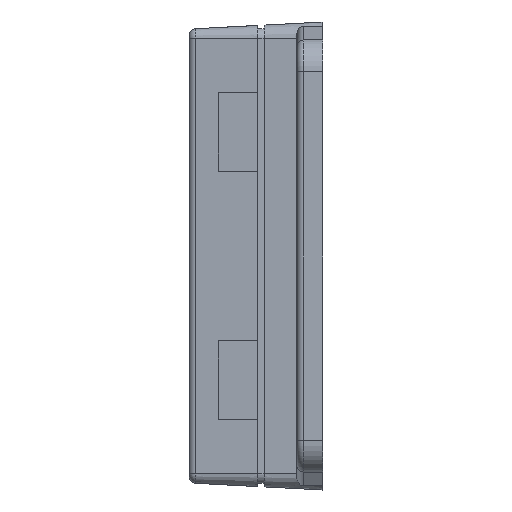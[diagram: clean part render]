
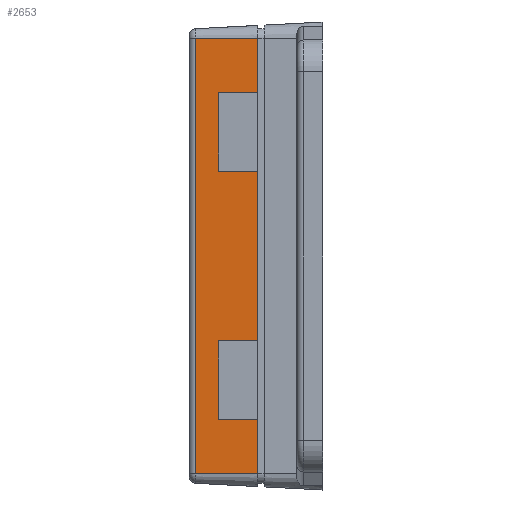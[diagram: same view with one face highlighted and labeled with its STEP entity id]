
A CAD part, left-side view. The second image highlights one B-rep face of the part: STEP entity #2653.
In plain terms, the highlighted planar face has unit normal (-0.999, 0.052, 0).
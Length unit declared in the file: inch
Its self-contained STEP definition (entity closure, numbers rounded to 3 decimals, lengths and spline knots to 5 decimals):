
#67 = VECTOR ( 'NONE', #5643, 39.37008 ) ;
#161 = CARTESIAN_POINT ( 'NONE',  ( -2.05443, 0.63215, -0.98425 ) ) ;
#322 = CARTESIAN_POINT ( 'NONE',  ( -2.04722, 0.76978, -1.31102 ) ) ;
#336 = LINE ( 'NONE', #4119, #5964 ) ;
#348 = DIRECTION ( 'NONE',  ( 0., 0., 1. ) ) ;
#411 = ORIENTED_EDGE ( 'NONE', *, *, #5316, .T. ) ;
#481 = LINE ( 'NONE', #6557, #3192 ) ;
#678 = VECTOR ( 'NONE', #5548, 39.37008 ) ;
#679 = DIRECTION ( 'NONE',  ( 0., 0., 1. ) ) ;
#764 = VERTEX_POINT ( 'NONE', #3047 ) ;
#804 = EDGE_CURVE ( 'NONE', #6882, #6074, #336, .T. ) ;
#847 = EDGE_CURVE ( 'NONE', #6415, #4742, #3309, .T. ) ;
#1147 = DIRECTION ( 'NONE',  ( -0.052, -0.999, 0. ) ) ;
#1215 = DIRECTION ( 'NONE',  ( -0.052, -0.999, 0. ) ) ;
#1266 = CARTESIAN_POINT ( 'NONE',  ( -2.06693, 0.3937, -1.31102 ) ) ;
#1279 = VECTOR ( 'NONE', #3503, 39.37008 ) ;
#1282 = CARTESIAN_POINT ( 'NONE',  ( -2.06693, 0.3937, -0.51181 ) ) ;
#1324 = AXIS2_PLACEMENT_3D ( 'NONE', #2237, #2721, #2814 ) ;
#1346 = CARTESIAN_POINT ( 'NONE',  ( -2.06693, 0.3937, 0.98425 ) ) ;
#1488 = LINE ( 'NONE', #4652, #67 ) ;
#1573 = VECTOR ( 'NONE', #4187, 39.37008 ) ;
#1577 = DIRECTION ( 'NONE',  ( 0.052, 0.999, 0. ) ) ;
#1684 = VECTOR ( 'NONE', #5366, 39.37008 ) ;
#1758 = CARTESIAN_POINT ( 'NONE',  ( -2.06693, 0.3937, -1.38976 ) ) ;
#1764 = VECTOR ( 'NONE', #6877, 39.37008 ) ;
#1768 = LINE ( 'NONE', #3736, #1684 ) ;
#1950 = CARTESIAN_POINT ( 'NONE',  ( -2.06693, 0.3937, -1.31102 ) ) ;
#1953 = LINE ( 'NONE', #2836, #3231 ) ;
#2052 = EDGE_CURVE ( 'NONE', #4502, #4792, #2956, .T. ) ;
#2053 = ORIENTED_EDGE ( 'NONE', *, *, #3711, .T. ) ;
#2119 = VECTOR ( 'NONE', #1577, 39.37008 ) ;
#2188 = PLANE ( 'NONE',  #1324 ) ;
#2237 = CARTESIAN_POINT ( 'NONE',  ( -2.06693, 0.3937, -1.38976 ) ) ;
#2386 = LINE ( 'NONE', #1758, #4791 ) ;
#2653 = ADVANCED_FACE ( 'NONE', ( #3672 ), #2188, .T. ) ;
#2707 = VECTOR ( 'NONE', #679, 39.37008 ) ;
#2721 = DIRECTION ( 'NONE',  ( -0.999, 0.052, 0. ) ) ;
#2729 = LINE ( 'NONE', #1266, #1279 ) ;
#2762 = EDGE_CURVE ( 'NONE', #6328, #5735, #1953, .T. ) ;
#2814 = DIRECTION ( 'NONE',  ( -0.052, -0.999, 0. ) ) ;
#2827 = VERTEX_POINT ( 'NONE', #161 ) ;
#2836 = CARTESIAN_POINT ( 'NONE',  ( -2.06693, 0.3937, 0.98425 ) ) ;
#2858 = CARTESIAN_POINT ( 'NONE',  ( -2.06693, 0.3937, 0.51181 ) ) ;
#2956 = LINE ( 'NONE', #4489, #678 ) ;
#3024 = LINE ( 'NONE', #5472, #1573 ) ;
#3047 = CARTESIAN_POINT ( 'NONE',  ( -2.06693, 0.3937, 1.31102 ) ) ;
#3088 = ORIENTED_EDGE ( 'NONE', *, *, #2052, .T. ) ;
#3099 = EDGE_LOOP ( 'NONE', ( #5258, #411, #6166, #4748, #3335, #3088, #2053, #4296, #4935, #5965, #4320, #4324 ) ) ;
#3192 = VECTOR ( 'NONE', #1147, 39.37008 ) ;
#3231 = VECTOR ( 'NONE', #1215, 39.37008 ) ;
#3309 = LINE ( 'NONE', #322, #1764 ) ;
#3335 = ORIENTED_EDGE ( 'NONE', *, *, #3340, .T. ) ;
#3340 = EDGE_CURVE ( 'NONE', #6217, #4502, #2386, .T. ) ;
#3503 = DIRECTION ( 'NONE',  ( -0.052, -0.999, 0. ) ) ;
#3647 = CARTESIAN_POINT ( 'NONE',  ( -2.04722, 0.76978, 1.31102 ) ) ;
#3672 = FACE_OUTER_BOUND ( 'NONE', #3099, .T. ) ;
#3711 = EDGE_CURVE ( 'NONE', #4792, #6328, #3024, .T. ) ;
#3736 = CARTESIAN_POINT ( 'NONE',  ( -2.06693, 0.3937, -0.98425 ) ) ;
#3814 = EDGE_CURVE ( 'NONE', #3976, #6217, #481, .T. ) ;
#3937 = CARTESIAN_POINT ( 'NONE',  ( -2.06693, 0.3937, -1.38976 ) ) ;
#3976 = VERTEX_POINT ( 'NONE', #4620 ) ;
#4119 = CARTESIAN_POINT ( 'NONE',  ( -2.06693, 0.3937, -1.38976 ) ) ;
#4187 = DIRECTION ( 'NONE',  ( 0., 0., 1. ) ) ;
#4296 = ORIENTED_EDGE ( 'NONE', *, *, #2762, .T. ) ;
#4320 = ORIENTED_EDGE ( 'NONE', *, *, #847, .F. ) ;
#4324 = ORIENTED_EDGE ( 'NONE', *, *, #5059, .T. ) ;
#4489 = CARTESIAN_POINT ( 'NONE',  ( -2.06693, 0.3937, 0.51181 ) ) ;
#4502 = VERTEX_POINT ( 'NONE', #2858 ) ;
#4620 = CARTESIAN_POINT ( 'NONE',  ( -2.05443, 0.63215, -0.51181 ) ) ;
#4652 = CARTESIAN_POINT ( 'NONE',  ( -2.05443, 0.63215, -1.38976 ) ) ;
#4742 = VERTEX_POINT ( 'NONE', #3647 ) ;
#4748 = ORIENTED_EDGE ( 'NONE', *, *, #3814, .T. ) ;
#4781 = LINE ( 'NONE', #6439, #2119 ) ;
#4791 = VECTOR ( 'NONE', #5119, 39.37008 ) ;
#4792 = VERTEX_POINT ( 'NONE', #6353 ) ;
#4935 = ORIENTED_EDGE ( 'NONE', *, *, #6091, .T. ) ;
#5059 = EDGE_CURVE ( 'NONE', #6415, #6882, #2729, .T. ) ;
#5119 = DIRECTION ( 'NONE',  ( 0., 0., 1. ) ) ;
#5179 = CARTESIAN_POINT ( 'NONE',  ( -2.05443, 0.63215, 0.98425 ) ) ;
#5258 = ORIENTED_EDGE ( 'NONE', *, *, #804, .T. ) ;
#5316 = EDGE_CURVE ( 'NONE', #6074, #2827, #1768, .T. ) ;
#5366 = DIRECTION ( 'NONE',  ( 0.052, 0.999, 0. ) ) ;
#5374 = EDGE_CURVE ( 'NONE', #764, #4742, #4781, .T. ) ;
#5472 = CARTESIAN_POINT ( 'NONE',  ( -2.05443, 0.63215, -1.38976 ) ) ;
#5487 = CARTESIAN_POINT ( 'NONE',  ( -2.06693, 0.3937, -0.98425 ) ) ;
#5548 = DIRECTION ( 'NONE',  ( 0.052, 0.999, 0. ) ) ;
#5619 = LINE ( 'NONE', #3937, #2707 ) ;
#5643 = DIRECTION ( 'NONE',  ( 0., 0., 1. ) ) ;
#5735 = VERTEX_POINT ( 'NONE', #1346 ) ;
#5808 = CARTESIAN_POINT ( 'NONE',  ( -2.04722, 0.76978, -1.31102 ) ) ;
#5964 = VECTOR ( 'NONE', #348, 39.37008 ) ;
#5965 = ORIENTED_EDGE ( 'NONE', *, *, #5374, .T. ) ;
#6074 = VERTEX_POINT ( 'NONE', #5487 ) ;
#6091 = EDGE_CURVE ( 'NONE', #5735, #764, #5619, .T. ) ;
#6166 = ORIENTED_EDGE ( 'NONE', *, *, #6783, .T. ) ;
#6217 = VERTEX_POINT ( 'NONE', #1282 ) ;
#6328 = VERTEX_POINT ( 'NONE', #5179 ) ;
#6353 = CARTESIAN_POINT ( 'NONE',  ( -2.05443, 0.63215, 0.51181 ) ) ;
#6415 = VERTEX_POINT ( 'NONE', #5808 ) ;
#6439 = CARTESIAN_POINT ( 'NONE',  ( -2.06693, 0.3937, 1.31102 ) ) ;
#6557 = CARTESIAN_POINT ( 'NONE',  ( -2.06693, 0.3937, -0.51181 ) ) ;
#6783 = EDGE_CURVE ( 'NONE', #2827, #3976, #1488, .T. ) ;
#6877 = DIRECTION ( 'NONE',  ( 0., 0., 1. ) ) ;
#6882 = VERTEX_POINT ( 'NONE', #1950 ) ;
